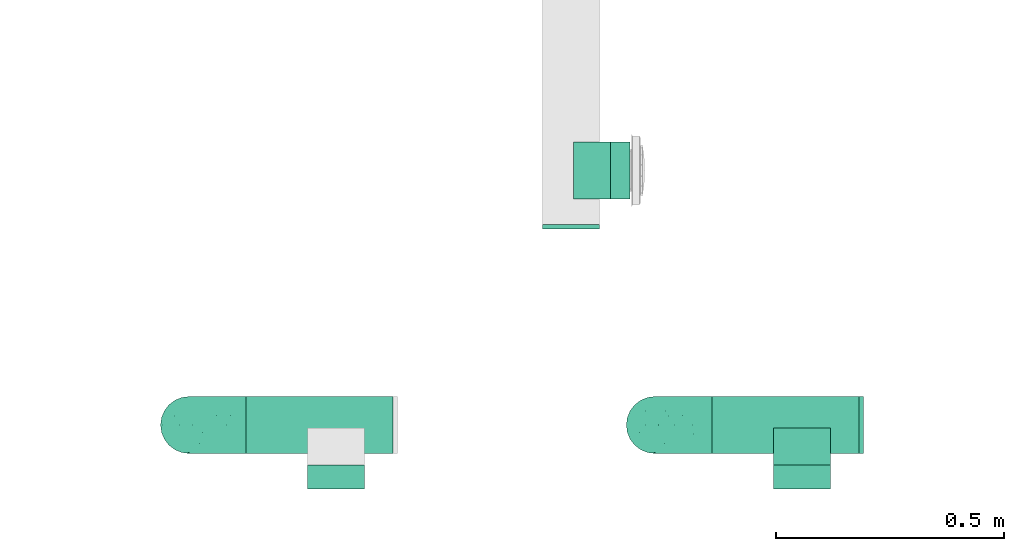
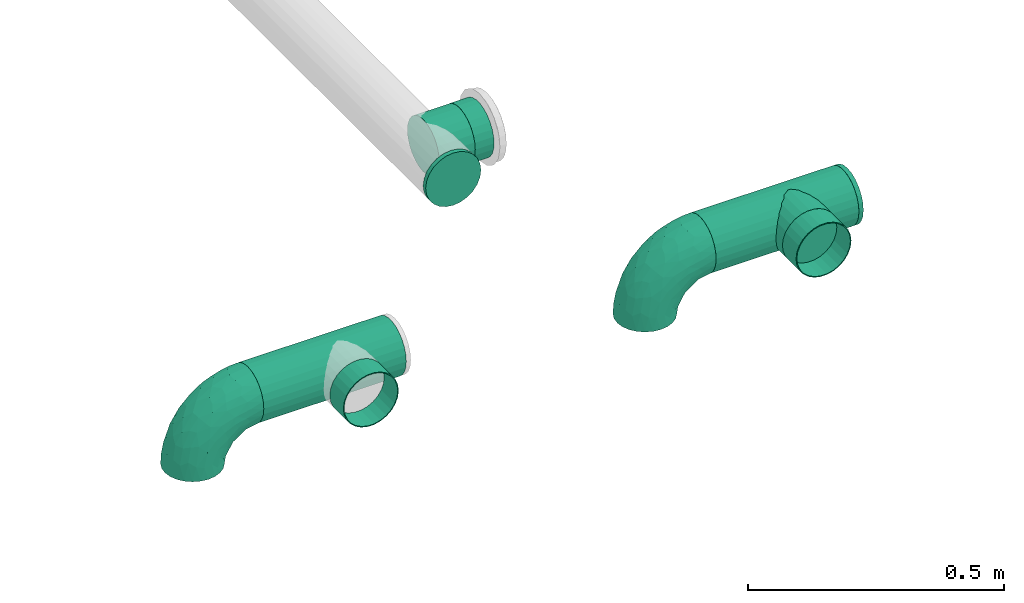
# One storey, part 12 of 63: 6 flow fittings, 5 flow segments.
"""IFC2X3 building model written with IfcOpenShell, lengths in millimetres."""

from ifc_helpers import new_model, entity, si_unit, converted_unit, derived_unit, direction, frame, origin_with_axes, origin_2d_with_axis, place, context, subcontext, project, spatial, hollow_circle, extrude, open_shell, surface_model, source, transform, mapped, type_object, element, save


model = new_model("IFC2X3")

# Units and contexts
model_context = context("Model", 3, precision=0.01, world=frame((0.0, 4.29681676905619e-09, 0.0)), true_north=direction((4.01073788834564e-13, 1.0)))
plan_context = context("Plan", 3, precision=0.01, world=frame((0.0, 4.29681676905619e-09, 0.0)), true_north=direction((4.01073788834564e-13, 1.0)))
body_context = subcontext(model_context, "Body", "Model", "MODEL_VIEW")
ifc_project = project(units=[converted_unit("PLANEANGLEUNIT", "DEGREE", entity("IfcPositiveLengthMeasure", 0.0174532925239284), si_unit("PLANEANGLEUNIT", "RADIAN"), dimensions=[0, 0, 0, 0, 0, 0, 0]), si_unit("AREAUNIT", "SQUARE_METRE"), si_unit("LENGTHUNIT", "METRE", prefix="MILLI"), si_unit("MASSUNIT", "GRAM", prefix="KILO"), si_unit("POWERUNIT", "WATT"), si_unit("PRESSUREUNIT", "PASCAL"), si_unit("FORCEUNIT", "NEWTON", prefix="KILO"), si_unit("ELECTRICVOLTAGEUNIT", "VOLT"), si_unit("ELECTRICCURRENTUNIT", "AMPERE"), si_unit("THERMODYNAMICTEMPERATUREUNIT", "DEGREE_CELSIUS"), si_unit("TIMEUNIT", "SECOND"), si_unit("VOLUMEUNIT", "CUBIC_METRE"), derived_unit("LINEARVELOCITYUNIT", [(si_unit("LENGTHUNIT", "METRE"), 1), (si_unit("TIMEUNIT", "SECOND"), -1)]), derived_unit("VOLUMETRICFLOWRATEUNIT", [(si_unit("VOLUMEUNIT", "CUBIC_METRE"), 1), (si_unit("TIMEUNIT", "SECOND"), -1)]), derived_unit("THERMALTRANSMITTANCEUNIT", [(si_unit("POWERUNIT", "WATT"), 1), (si_unit("THERMODYNAMICTEMPERATUREUNIT", "KELVIN"), -1), (si_unit("AREAUNIT", "SQUARE_METRE"), -1)]), derived_unit("SOUNDPRESSUREUNIT", [(si_unit("PRESSUREUNIT", "PASCAL"), 1)])], contexts=[model_context, plan_context])

# Site, building, storey
site_placement = place(None, frame((0.0, -4.29681676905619e-09, 0.0), z_axis=(0.0, 0.0, 1.0), x_axis=(1.0, 0.0, 0.0)))
site = spatial("IfcSite", under=ifc_project, at=site_placement, CompositionType="ELEMENT")
building_placement = place(site_placement, frame((0.0, 4.29681676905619e-09, 0.0), z_axis=(0.0, 0.0, 1.0), x_axis=(1.0, 0.0, 0.0)))
building = spatial("IfcBuilding", under=site, at=building_placement, Name="mc-building", CompositionType="ELEMENT")
storey_placement = place(building_placement, frame((0.0, 0.0, 210900.0), z_axis=(0.0, 0.0, 1.0), x_axis=(1.0, 0.0, 0.0)))
storey = spatial("IfcBuildingStorey", under=building, at=storey_placement, Name="Nivå F", CompositionType="ELEMENT", Elevation=210900.0)

# Flow fittings
duct_fitting_type_1 = type_object("IfcDuctFittingType", Name="magicirc_elbow_full_radius_001", PredefinedType="BEND")
shared_shape_1 = source(origin_with_axes(), body_context, "Body", "SurfaceModel", [
    surface_model("IfcShellBasedSurfaceModel", [(-125.0, 16.17619, -60.37037), (-125.0, 0.0, -62.5), (-125.0, 44.19417, -44.19417), (-125.0, 31.25, -54.12659), (-125.0, 60.37037, -16.17619), (-125.0, 54.12659, -31.25), (-125.0, -16.17619, -60.37037), (-125.0, -31.25, -54.12659), (-125.0, -44.19417, -44.19417), (-125.0, -54.12659, -31.25), (-125.0, -60.37037, -16.17619), (-125.0, -62.5, 0.0), (-125.0, 62.5, 0.0), (-125.0, -31.25, 54.12659), (-125.0, 60.37037, 16.17619), (-125.0, 54.12659, 31.25), (-125.0, 16.17619, 60.37037), (-125.0, 31.25, 54.12659), (-125.0, 44.19417, 44.19417), (-125.0, -54.12659, 31.25), (-125.0, -44.19417, 44.19417), (-125.0, -60.37037, 16.17619), (-125.0, -16.17619, 60.37037), (-125.0, 0.0, 62.5), (-44.19417, 125.0, -44.19417), (0.0, 125.0, -62.5), (-16.17619, 125.0, -60.37037), (-31.25, 125.0, -54.12659), (-54.12659, 125.0, -31.25), (-60.37037, 125.0, -16.17619), (16.17619, 125.0, -60.37037), (44.19417, 125.0, -44.19417), (31.25, 125.0, -54.12659), (60.37037, 125.0, -16.17619), (54.12659, 125.0, -31.25), (62.5, 125.0, 0.0), (44.19417, 125.0, 44.19417), (31.25, 125.0, 54.12659), (-62.5, 125.0, 0.0), (-60.37037, 125.0, 16.17619), (-54.12659, 125.0, 31.25), (-16.17619, 125.0, 60.37037), (-44.19417, 125.0, 44.19417), (-31.25, 125.0, 54.12659), (60.37037, 125.0, 16.17619), (54.12659, 125.0, 31.25), (0.0, 125.0, 62.5), (16.17619, 125.0, 60.37037), (-92.0149, -48.59662, 35.11543), (-82.31101, -36.10079, 46.59002), (-83.27732, -57.79898, 0.0), (21.5934, 8.09566, 0.0), (6.68953, -6.68953, 12.50062), (-8.09566, -21.5934, 0.0), (-85.18285, -54.95352, 19.72452), (-63.86862, 108.10791, 10.69753), (-72.65264, 88.16475, 13.64847), (-58.85933, 108.47697, 26.01876), (28.68805, 50.93011, 42.73586), (15.24994, 48.30376, 51.88115), (13.33611, 22.15566, 40.76355), (-28.58034, -33.18174, 16.61251), (-55.80927, -40.00167, 31.60254), (-55.92901, -46.21073, 18.75923), (-43.6468, -43.93166, 0.0), (-11.16429, 11.16428, 51.09905), (-91.91541, -23.64007, 56.2333), (-48.30376, -15.24994, 51.88115), (-62.2246, -0.56088, 60.57833), (-86.05221, 71.09173, 22.01563), (-76.29757, 73.71528, 30.99181), (-95.48, -8.27954, 61.43109), (-21.72166, 61.46244, 62.38786), (-46.29465, 46.29465, 60.98138), (-37.21568, 27.31198, 62.17805), (-96.3442, 24.51222, 59.0402), (-23.33012, 107.80836, 58.54242), (-8.56588, 93.49118, 62.34649), (-87.52028, 9.58041, 62.39347), (-90.8433, 62.14568, 32.36992), (-104.65631, 61.64741, 22.10298), (-108.67612, 63.76169, 10.43133), (-88.81041, 72.98575, 10.36437), (36.10079, 82.31101, 46.59002), (-22.15566, -13.33612, 40.76355), (-97.70214, 52.10141, 41.01675), (33.18174, 28.58034, 16.61251), (43.93166, 43.6468, 0.0), (-108.13323, 37.84893, 50.9265), (-16.31425, 41.86087, 61.36861), (-31.05498, 11.46575, 58.36241), (-6.38494, 33.76703, 57.43674), (23.64007, 91.91541, 56.2333), (8.27954, 95.48, 61.43109), (40.00167, 55.80927, 31.60254), (47.31258, 55.33607, 14.21495), (57.79898, 83.27732, 0.0), (54.95352, 85.18285, 19.72452), (48.59662, 92.0149, 35.11543), (-51.08394, 80.06201, 49.23756), (-51.34965, 100.68876, 40.68918), (-65.88145, 69.79931, 44.27158), (-67.25753, 101.08228, 0.0), (-66.7509, 56.0836, 51.93913), (-47.27423, 67.56375, 55.69769), (-80.80582, 80.80582, 0.0), (-101.08228, 67.25753, 0.0), (-27.0301, 84.68903, 59.52251), (-39.49549, 96.79785, 51.80473), (-4.68934, 4.68934, 43.22247), (2.91368, -2.91368, 27.95973), (-68.67967, 26.77168, 61.38152), (-61.32894, 15.31518, 62.47333), (-66.44476, 42.40788, 57.80884), (-86.06534, 42.42608, 52.63144), (-36.4073, 64.87811, 59.87196), (0.56088, 62.2246, 60.57833), (-50.92891, -28.66756, 42.755), (-64.50927, 88.5041, 30.85553), (-27.43118, -26.16339, 29.83954), (22.73426, 21.43212, 28.89237), (-90.73911, 40.97988, -52.27133), (-51.05944, -15.77315, -52.43613), (-54.27147, -0.77962, -59.44482), (-25.11169, -1.04586, -51.21226), (-98.94229, 7.90272, -62.29658), (-67.16143, 94.52638, -18.73917), (-96.1712, 24.53976, -59.04752), (-57.8841, 72.64103, -48.12601), (-44.50916, 76.42373, -54.27754), (-57.76281, 57.76281, -54.8772), (-107.28047, 64.03146, -11.08737), (-59.60363, -46.85882, -20.9596), (-91.17795, -55.95169, -20.37554), (-87.70528, 72.36167, -15.72738), (37.33987, 90.42119, -47.18844), (21.5694, 79.15007, -55.58604), (24.6394, 105.55614, -56.88213), (-98.81833, 51.80612, -40.89409), (-75.37655, 57.2746, -47.13743), (-29.56225, -32.61603, -19.86672), (2.63114, 29.35884, -52.12213), (-22.06401, 22.064, -59.01679), (-105.22465, -49.75349, -36.31269), (-39.22852, 98.11971, -51.7028), (-25.51302, 90.93127, -59.26694), (7.06321, 14.54725, -41.00964), (25.49531, 46.66577, -43.72165), (20.99941, 20.9078, -30.93535), (-90.42119, -37.33987, -47.18844), (-47.40462, -35.90659, -32.07933), (-105.55614, -24.6394, -56.88213), (0.77962, 54.27147, -59.44482), (12.91756, 53.35696, -54.59988), (7.88048, 92.08251, -61.35725), (-79.15007, -21.5694, -55.58604), (-92.08251, -7.88048, -61.35725), (-78.52964, -46.34869, -33.8522), (-68.20954, -28.53784, -49.07387), (46.34869, 78.52964, -33.8522), (46.85882, 59.60363, -20.9596), (35.90659, 47.40462, -32.07933), (-75.95077, 74.3101, -30.65772), (-100.92719, 60.72326, -27.00798), (2.91558, -2.91558, -27.95435), (6.69001, -6.69001, -12.49729), (32.61603, 29.56225, -19.86672), (-54.06785, 91.48679, -41.70621), (-58.74822, 101.55878, -30.19257), (-7.90272, 98.94229, -62.29658), (49.75349, 105.22465, -36.31269), (-14.77484, 68.85348, -62.48651), (-33.7955, 36.46996, -62.46452), (-36.98162, 59.24998, -60.63975), (55.95169, 91.17795, -20.37554), (-61.70769, 36.16979, -60.43635), (-23.35082, -23.18253, -30.24249), (-68.85348, 14.77484, -62.48651), (-16.60827, -10.64436, -39.25753), (-46.66577, -25.49531, -43.72165), (-69.70063, 70.78468, -40.55271)], [open_shell([[[0, 1, 2]], [[3, 0, 2]], [[4, 5, 2]], [[6, 2, 1]], [[4, 2, 6]], [[7, 8, 6]], [[8, 4, 6]], [[9, 10, 8]], [[11, 8, 10]], [[8, 11, 4]], [[11, 12, 4]], [[12, 13, 14]], [[15, 14, 16]], [[16, 17, 18]], [[15, 16, 18]], [[16, 14, 13]], [[19, 20, 21]], [[21, 20, 11]], [[22, 23, 13]], [[20, 13, 11]], [[13, 23, 16]], [[13, 12, 11]], [[24, 25, 26]], [[24, 26, 27]], [[24, 28, 29]], [[25, 24, 30]], [[30, 24, 29]], [[30, 31, 32]], [[30, 29, 31]], [[31, 33, 34]], [[33, 31, 35]], [[31, 36, 35]], [[31, 29, 37]], [[38, 39, 40]], [[38, 40, 41]], [[42, 43, 41]], [[42, 41, 40]], [[38, 41, 37]], [[44, 36, 45]], [[35, 36, 44]], [[37, 46, 47]], [[31, 37, 36]], [[41, 46, 37]], [[29, 38, 37]], [[20, 48, 49]], [[21, 11, 50]], [[51, 52, 53]], [[54, 19, 21]], [[50, 54, 21]], [[55, 56, 57]], [[19, 48, 20]], [[58, 59, 60]], [[61, 62, 63]], [[61, 63, 64]], [[20, 49, 13]], [[61, 64, 53]], [[65, 60, 59]], [[66, 67, 68]], [[56, 69, 70]], [[71, 23, 22]], [[72, 73, 74]], [[17, 16, 75]], [[66, 13, 49]], [[41, 76, 77]], [[23, 78, 16]], [[15, 79, 80]], [[81, 12, 14]], [[69, 82, 81]], [[83, 36, 37]], [[65, 67, 84]], [[18, 85, 15]], [[86, 51, 87]], [[18, 17, 88]], [[89, 90, 91]], [[83, 37, 92]], [[69, 81, 80]], [[93, 47, 46]], [[94, 86, 95]], [[96, 97, 95]], [[96, 44, 97]], [[98, 97, 45]], [[46, 41, 77]], [[63, 50, 64]], [[44, 45, 97]], [[83, 94, 98]], [[45, 36, 98]], [[99, 100, 101]], [[55, 102, 56]], [[39, 57, 40]], [[44, 96, 35]], [[48, 54, 62]], [[79, 70, 69]], [[99, 103, 104]], [[38, 102, 55]], [[23, 71, 78]], [[56, 105, 82]], [[18, 88, 85]], [[102, 105, 56]], [[92, 37, 47]], [[57, 100, 40]], [[82, 105, 106]], [[107, 108, 104]], [[109, 110, 60]], [[107, 72, 77]], [[13, 66, 22]], [[108, 107, 76]], [[76, 41, 43]], [[43, 42, 108]], [[83, 92, 59]], [[95, 86, 87]], [[111, 112, 74]], [[75, 16, 78]], [[113, 75, 111]], [[103, 85, 114]], [[80, 79, 69]], [[100, 42, 40]], [[115, 104, 73]], [[107, 115, 72]], [[93, 77, 116]], [[67, 66, 49]], [[71, 66, 68]], [[67, 117, 84]], [[67, 65, 90]], [[93, 92, 47]], [[116, 91, 59]], [[116, 59, 92]], [[109, 60, 65]], [[54, 48, 19]], [[49, 48, 62]], [[83, 98, 36]], [[97, 98, 94]], [[111, 75, 78]], [[88, 75, 114]], [[81, 82, 106]], [[56, 82, 69]], [[12, 81, 106]], [[81, 14, 80]], [[14, 15, 80]], [[79, 15, 85]], [[85, 101, 79]], [[70, 101, 118]], [[108, 99, 104]], [[113, 103, 114]], [[111, 74, 73]], [[116, 77, 72]], [[90, 74, 68]], [[72, 74, 89]], [[77, 93, 46]], [[92, 93, 116]], [[66, 71, 22]], [[78, 71, 68]], [[101, 100, 118]], [[108, 42, 100]], [[52, 61, 53]], [[119, 110, 84]], [[94, 58, 120]], [[86, 120, 52]], [[117, 67, 49]], [[61, 119, 62]], [[120, 60, 110]], [[83, 58, 94]], [[111, 78, 112]], [[113, 111, 73]], [[104, 113, 73]], [[75, 113, 114]], [[104, 103, 113]], [[85, 103, 101]], [[78, 68, 112]], [[68, 74, 112]], [[101, 70, 79]], [[56, 70, 118]], [[67, 90, 68]], [[91, 90, 65]], [[59, 91, 65]], [[89, 91, 116]], [[72, 89, 116]], [[90, 89, 74]], [[57, 56, 118]], [[38, 55, 39]], [[86, 52, 51]], [[61, 52, 110]], [[75, 88, 17]], [[85, 88, 114]], [[108, 76, 43]], [[77, 76, 107]], [[55, 57, 39]], [[100, 57, 118]], [[72, 115, 73]], [[107, 104, 115]], [[100, 99, 108]], [[103, 99, 101]], [[62, 54, 63]], [[63, 54, 50]], [[96, 95, 87]], [[94, 95, 97]], [[49, 62, 117]], [[119, 117, 62]], [[110, 119, 61]], [[117, 119, 84]], [[65, 84, 109]], [[110, 109, 84]], [[52, 120, 110]], [[94, 120, 86]], [[59, 58, 83]], [[120, 58, 60]], [[2, 121, 3]], [[122, 123, 124]], [[1, 0, 125]], [[126, 102, 38]], [[3, 127, 0]], [[128, 129, 130]], [[106, 131, 12]], [[132, 50, 133]], [[106, 134, 131]], [[135, 136, 137]], [[138, 139, 121]], [[64, 140, 53]], [[141, 124, 142]], [[121, 2, 138]], [[133, 9, 143]], [[144, 27, 145]], [[50, 11, 10]], [[146, 147, 148]], [[149, 8, 7]], [[140, 132, 150]], [[151, 149, 7]], [[141, 152, 153]], [[30, 154, 25]], [[133, 10, 9]], [[143, 9, 8]], [[155, 156, 123]], [[157, 149, 158]], [[7, 6, 151]], [[156, 6, 1]], [[159, 160, 161]], [[105, 134, 106]], [[64, 50, 132]], [[126, 162, 134]], [[138, 163, 162]], [[29, 126, 38]], [[140, 164, 165]], [[166, 87, 51]], [[167, 168, 28]], [[162, 126, 168]], [[32, 31, 135]], [[154, 30, 137]], [[26, 169, 145]], [[127, 3, 121]], [[169, 26, 25]], [[31, 34, 170]], [[27, 144, 24]], [[26, 145, 27]], [[30, 32, 137]], [[87, 166, 160]], [[165, 166, 51]], [[171, 172, 173]], [[142, 152, 141]], [[165, 51, 53]], [[156, 155, 151]], [[136, 135, 147]], [[34, 33, 174]], [[35, 96, 33]], [[175, 127, 121]], [[2, 5, 138]], [[174, 159, 170]], [[176, 140, 150]], [[171, 154, 152]], [[126, 105, 102]], [[28, 24, 167]], [[173, 145, 171]], [[131, 163, 4]], [[128, 144, 129]], [[139, 128, 130]], [[174, 160, 159]], [[170, 135, 31]], [[147, 135, 159]], [[152, 154, 136]], [[169, 154, 171]], [[153, 147, 141]], [[152, 142, 172]], [[33, 96, 174]], [[160, 96, 87]], [[155, 122, 158]], [[143, 149, 157]], [[125, 156, 1]], [[177, 172, 123]], [[177, 123, 156]], [[123, 142, 124]], [[133, 157, 132]], [[50, 10, 133]], [[126, 134, 105]], [[168, 29, 28]], [[163, 5, 4]], [[121, 139, 130]], [[175, 121, 130]], [[125, 127, 177]], [[145, 173, 129]], [[167, 24, 144]], [[147, 146, 141]], [[178, 124, 146]], [[124, 141, 146]], [[124, 179, 122]], [[162, 163, 134]], [[138, 5, 163]], [[127, 125, 0]], [[156, 125, 177]], [[154, 169, 25]], [[145, 169, 171]], [[147, 161, 148]], [[146, 164, 178]], [[176, 164, 140]], [[124, 178, 179]], [[171, 152, 172]], [[175, 130, 173]], [[123, 172, 142]], [[175, 172, 177]], [[172, 175, 173]], [[127, 175, 177]], [[162, 180, 138]], [[180, 167, 128]], [[160, 174, 96]], [[161, 160, 166]], [[161, 166, 148]], [[147, 159, 161]], [[166, 164, 148]], [[164, 146, 148]], [[150, 132, 157]], [[64, 132, 140]], [[157, 179, 150]], [[176, 179, 178]], [[180, 128, 139]], [[144, 128, 167]], [[145, 129, 144]], [[173, 130, 129]], [[138, 180, 139]], [[167, 180, 162]], [[179, 176, 150]], [[164, 176, 178]], [[140, 165, 53]], [[166, 165, 164]], [[163, 131, 134]], [[12, 131, 4]], [[135, 137, 32]], [[154, 137, 136]], [[174, 170, 34]], [[135, 170, 159]], [[156, 151, 6]], [[149, 151, 155]], [[149, 143, 8]], [[133, 143, 157]], [[162, 168, 167]], [[29, 168, 126]], [[152, 136, 153]], [[147, 153, 136]], [[158, 122, 179]], [[123, 122, 155]], [[157, 158, 179]], [[155, 158, 149]]])]),
])
for number, where, z_axis, x_axis, name in (
    (1, (531430.70917, 440892.96265, 2163.0), (0.0, -1.0, 0.0), (-1.0, 0.0, 0.0), "magicirc_elbow_full_radius_001"),
    (2, (530408.70917, 440892.96265, 2163.0), (0.0, -1.0, 0.0), (-1.0, 0.0, 0.0), "magicirc_elbow_full_radius_001"),
):
    element("IfcFlowFitting", number, at=place(storey_placement, frame(where, z_axis=z_axis, x_axis=x_axis)), inside=storey, type_object=duct_fitting_type_1, Name=name, context=body_context, shape_type="MappedRepresentation", body=[
        mapped(shared_shape_1, transform((0.0, 0.0, 0.0), scale=1.0)),
    ])
duct_fitting_type_2 = type_object("IfcDuctFittingType", Name="magicirc_tapoutlet_001", PredefinedType="CONNECTOR")
shared_shape_2 = source(origin_with_axes(), body_context, "Body", "SurfaceModel", [
    surface_model("IfcShellBasedSurfaceModel", [(25.0, 0.0, -62.5), (25.0, -31.25, -54.12659), (25.0, -16.17619, -60.37037), (25.0, 44.19417, -44.19417), (25.0, 62.5, 0.0), (25.0, 31.25, -54.12659), (25.0, 54.12659, -31.25), (25.0, -62.5, 0.0), (25.0, -60.37037, -16.17619), (25.0, -60.37037, 16.17619), (25.0, 16.17619, -60.37037), (25.0, -44.19417, -44.19417), (25.0, -54.12659, -31.25), (25.0, 60.37037, -16.17619), (25.0, 60.37037, 16.17619), (25.0, 54.12659, 31.25), (25.0, 44.19417, 44.19417), (25.0, 31.25, 54.12659), (25.0, 0.0, 62.5), (25.0, 16.17619, 60.37037), (25.0, -44.19417, 44.19417), (25.0, -54.12659, 31.25), (25.0, -16.17619, 60.37037), (25.0, -31.25, 54.12659), (0.0, 0.0, 62.5), (0.0, 16.17619, 60.37037), (0.0, 31.25, 54.12659), (0.0, 44.19417, 44.19417), (0.0, 54.12659, 31.25), (0.0, 60.37037, 16.17619), (0.0, 62.5, 0.0), (0.0, 60.37037, -16.17619), (0.0, 54.12659, -31.25), (0.0, 44.19417, -44.19417), (0.0, 31.25, -54.12659), (0.0, 16.17619, -60.37037), (0.0, 0.0, -62.5), (0.0, -16.17619, -60.37037), (0.0, -31.25, -54.12659), (0.0, -44.19417, -44.19417), (0.0, -54.12659, -31.25), (0.0, -60.37037, -16.17619), (0.0, -62.5, 0.0), (0.0, -60.37037, 16.17619), (0.0, -54.12659, 31.25), (0.0, -44.19417, 44.19417), (0.0, -31.25, 54.12659), (0.0, -16.17619, 60.37037), (-56.404, -44.19417, -44.19417), (-56.404, -54.12659, -31.25), (-56.404, -62.5, 0.0), (-56.404, -31.25, -54.12659), (-56.404, 0.0, -62.5), (-56.404, 62.5, 0.0), (-56.404, 60.37037, -16.17619), (-56.404, 60.37037, 16.17619), (-56.404, -16.17619, -60.37037), (-56.404, 16.17619, -60.37037), (-56.404, 31.25, -54.12659), (-56.404, 44.19417, -44.19417), (-56.404, 54.12659, -31.25), (-56.404, -60.37037, 16.17619), (-56.404, -60.37037, -16.17619), (-56.404, 54.12659, 31.25), (-56.404, 44.19417, 44.19417), (-56.404, 16.17619, 60.37037), (-56.404, 31.25, 54.12659), (-56.404, -16.17619, 60.37037), (-56.404, -54.12659, 31.25), (-56.404, -44.19417, 44.19417), (-56.404, -31.25, 54.12659), (-56.404, 0.0, 62.5)], [open_shell([[[0, 1, 2]], [[3, 4, 5]], [[3, 6, 4]], [[7, 8, 9]], [[10, 4, 0]], [[5, 4, 10]], [[11, 0, 9]], [[0, 11, 1]], [[1, 2, 0]], [[12, 9, 8]], [[9, 12, 11]], [[8, 9, 7]], [[4, 6, 13]], [[14, 15, 0]], [[0, 15, 16]], [[0, 17, 18]], [[16, 17, 0]], [[17, 19, 18]], [[0, 20, 21]], [[21, 9, 0]], [[22, 23, 0]], [[23, 20, 0]], [[22, 0, 18]], [[4, 14, 0]], [[24, 18, 19]], [[25, 19, 17]], [[24, 19, 25]], [[26, 16, 27]], [[26, 25, 17]], [[16, 26, 17]], [[28, 15, 14]], [[29, 14, 4]], [[27, 15, 28]], [[29, 28, 14]], [[30, 29, 4]], [[15, 27, 16]], [[30, 4, 13]], [[31, 13, 6]], [[30, 13, 31]], [[32, 3, 33]], [[32, 31, 6]], [[3, 32, 6]], [[34, 5, 10]], [[35, 10, 0]], [[33, 5, 34]], [[35, 34, 10]], [[36, 35, 0]], [[5, 33, 3]], [[36, 0, 2]], [[37, 2, 1]], [[36, 2, 37]], [[38, 11, 39]], [[38, 37, 1]], [[11, 38, 1]], [[40, 12, 8]], [[41, 8, 7]], [[39, 12, 40]], [[41, 40, 8]], [[42, 41, 7]], [[12, 39, 11]], [[42, 7, 9]], [[43, 9, 21]], [[42, 9, 43]], [[44, 20, 45]], [[44, 43, 21]], [[20, 44, 21]], [[46, 23, 22]], [[47, 22, 18]], [[45, 23, 46]], [[47, 46, 22]], [[24, 47, 18]], [[23, 45, 20]], [[15, 0, 14]], [[15, 16, 0]], [[0, 16, 17]], [[18, 17, 19]], [[9, 0, 21]], [[0, 23, 20]], [[18, 22, 0]], [[14, 0, 4]], [[48, 49, 50]], [[48, 50, 51]], [[36, 37, 52]], [[52, 35, 36]], [[53, 54, 55]], [[52, 56, 57]], [[57, 55, 58]], [[59, 55, 60]], [[58, 55, 59]], [[57, 50, 61]], [[56, 51, 50]], [[62, 50, 49]], [[50, 57, 56]], [[54, 60, 55]], [[55, 57, 63]], [[64, 63, 57]], [[57, 65, 66]], [[57, 66, 64]], [[57, 67, 65]], [[68, 69, 57]], [[57, 61, 68]], [[69, 70, 57]], [[57, 70, 67]], [[67, 71, 65]], [[71, 24, 25]], [[66, 25, 26]], [[71, 25, 65]], [[65, 25, 66]], [[26, 64, 66]], [[26, 27, 64]], [[55, 28, 29]], [[53, 29, 30]], [[27, 63, 64]], [[27, 28, 63]], [[63, 28, 55]], [[29, 53, 55]], [[54, 30, 31]], [[60, 31, 32]], [[53, 30, 54]], [[54, 31, 60]], [[32, 59, 60]], [[32, 33, 59]], [[57, 34, 35]], [[33, 58, 59]], [[33, 34, 58]], [[58, 34, 57]], [[35, 52, 57]], [[37, 38, 51]], [[52, 37, 56]], [[48, 51, 38]], [[37, 51, 56]], [[38, 39, 48]], [[62, 40, 41]], [[50, 41, 42]], [[39, 49, 48]], [[39, 40, 49]], [[49, 40, 62]], [[41, 50, 62]], [[43, 44, 68]], [[42, 43, 61]], [[61, 50, 42]], [[68, 61, 43]], [[44, 69, 68]], [[44, 45, 69]], [[67, 46, 47]], [[71, 47, 24]], [[45, 70, 69]], [[45, 46, 70]], [[70, 46, 67]], [[47, 71, 67]], [[57, 63, 55]], [[57, 64, 63]], [[66, 57, 65]], [[66, 64, 57]], [[65, 57, 67]], [[68, 57, 61]]])]),
])
for number, where, z_axis, x_axis, name in (
    (3, (531753.42256, 440830.46265, 2163.0), (0.0, 0.0, -1.0), (0.0, -1.0, 0.0), "magicirc_tapoutlet_001"),
    (4, (531308.90768, 441451.49375, 2163.0), (0.0, 0.0, -1.0), (1.0, 0.0, 0.0), "magicirc_tapoutlet_001"),
):
    element("IfcFlowFitting", number, at=place(storey_placement, frame(where, z_axis=z_axis, x_axis=x_axis)), inside=storey, type_object=duct_fitting_type_2, Name=name, context=body_context, shape_type="MappedRepresentation", body=[
        mapped(shared_shape_2, transform((0.0, 0.0, 0.0), scale=1.0)),
    ])
duct_fitting_type_3 = type_object("IfcDuctFittingType", Name="magicirc_plug_001", PredefinedType="OBSTRUCTION")
shared_shape_3 = source(origin_with_axes(), body_context, "Body", "SurfaceModel", [
    surface_model("IfcShellBasedSurfaceModel", [(0.0, 0.0, -62.5), (0.0, -16.17619, -60.37037), (0.0, 16.17619, -60.37037), (0.0, 31.25, -54.12659), (0.0, 54.12659, -31.25), (0.0, 44.19417, -44.19417), (0.0, 60.37037, -16.17619), (0.0, -31.25, -54.12659), (0.0, -44.19417, -44.19417), (0.0, -62.5, 0.0), (0.0, -54.12659, -31.25), (0.0, -60.37037, -16.17619), (0.0, 62.5, 0.0), (0.0, 60.37037, 16.17619), (0.0, 44.19417, 44.19417), (0.0, 54.12659, 31.25), (0.0, 31.25, 54.12659), (0.0, -54.12659, 31.25), (0.0, -16.17619, 60.37037), (0.0, 16.17619, 60.37037), (0.0, -44.19417, 44.19417), (0.0, -31.25, 54.12659), (0.0, -60.37037, 16.17619), (0.0, 0.0, 62.5), (10.0, 16.17619, -60.37037), (10.0, -16.17619, -60.37037), (10.0, 0.0, -62.5), (10.0, 44.19417, -44.19417), (10.0, 31.25, -54.12659), (10.0, 54.12659, -31.25), (10.0, 60.37037, -16.17619), (10.0, -44.19417, -44.19417), (10.0, -31.25, -54.12659), (10.0, -62.5, 0.0), (10.0, -60.37037, -16.17619), (10.0, -54.12659, -31.25), (10.0, -54.12659, 31.25), (10.0, 44.19417, 44.19417), (10.0, 62.5, 0.0), (10.0, 60.37037, 16.17619), (10.0, 54.12659, 31.25), (10.0, 31.25, 54.12659), (10.0, 16.17619, 60.37037), (10.0, -16.17619, 60.37037), (10.0, -31.25, 54.12659), (10.0, -44.19417, 44.19417), (10.0, -60.37037, 16.17619), (10.0, 0.0, 62.5)], [open_shell([[[0, 1, 2]], [[3, 2, 4]], [[4, 2, 1]], [[5, 3, 4]], [[6, 4, 1]], [[7, 8, 1]], [[9, 1, 8]], [[10, 11, 8]], [[9, 8, 11]], [[9, 6, 1]], [[9, 12, 6]], [[13, 12, 14]], [[15, 13, 14]], [[16, 14, 17]], [[9, 17, 14]], [[16, 18, 19]], [[20, 21, 17]], [[17, 9, 22]], [[21, 18, 17]], [[17, 18, 16]], [[18, 23, 19]], [[14, 12, 9]], [[24, 25, 26]], [[27, 24, 28]], [[25, 24, 29]], [[29, 24, 27]], [[25, 29, 30]], [[25, 31, 32]], [[31, 25, 33]], [[31, 34, 35]], [[34, 31, 33]], [[25, 30, 33]], [[30, 36, 33]], [[37, 38, 39]], [[37, 39, 40]], [[37, 41, 42]], [[38, 37, 43]], [[43, 37, 42]], [[36, 44, 45]], [[46, 33, 36]], [[38, 44, 36]], [[43, 44, 38]], [[42, 47, 43]], [[36, 30, 38]], [[46, 9, 33]], [[36, 22, 46]], [[20, 45, 44]], [[36, 45, 17]], [[21, 44, 43]], [[36, 17, 22]], [[22, 9, 46]], [[18, 47, 23]], [[18, 21, 43]], [[20, 44, 21]], [[20, 17, 45]], [[47, 18, 43]], [[41, 19, 42]], [[37, 16, 41]], [[15, 40, 39]], [[37, 40, 14]], [[13, 39, 38]], [[41, 16, 19]], [[19, 23, 42]], [[13, 15, 39]], [[14, 40, 15]], [[14, 16, 37]], [[12, 13, 38]], [[42, 23, 47]], [[30, 12, 38]], [[29, 6, 30]], [[5, 27, 28]], [[29, 27, 4]], [[3, 28, 24]], [[29, 4, 6]], [[6, 12, 30]], [[2, 26, 0]], [[2, 3, 24]], [[5, 28, 3]], [[5, 4, 27]], [[26, 2, 24]], [[32, 1, 25]], [[31, 7, 32]], [[10, 35, 34]], [[31, 35, 8]], [[11, 34, 33]], [[32, 7, 1]], [[1, 0, 25]], [[11, 10, 34]], [[8, 35, 10]], [[8, 7, 31]], [[9, 11, 33]], [[25, 0, 26]]])]),
])
for number, where, z_axis, x_axis, name in (
    (5, (531878.42289, 440892.96265, 2163.0), (0.0, 0.0, 1.0), (1.0, 0.0, 0.0), "magicirc_plug_001"),
    (6, (531246.40768, 441333.33664, 2163.0), (0.0, 0.0, 1.0), (0.0, -1.0, 0.0), "magicirc_plug_001"),
):
    element("IfcFlowFitting", number, at=place(storey_placement, frame(where, z_axis=z_axis, x_axis=x_axis)), inside=storey, type_object=duct_fitting_type_3, Name=name, context=body_context, shape_type="MappedRepresentation", body=[
        mapped(shared_shape_3, transform((0.0, 0.0, 0.0), scale=1.0)),
    ])

# Flow segments
duct_segment_type = type_object("IfcDuctSegmentType", Name="KK001T - Spiro kanaler, Forsinket stål", PredefinedType="RIGIDSEGMENT")
shared_shape_4 = source(origin_with_axes(), body_context, "Body", "SweptSolid", [
    extrude(hollow_circle(Radius=62.5, WallThickness=2.0, at=origin_2d_with_axis()), frame((0.0, 0.0, 0.0), z_axis=(1.0, 0.0, 0.0), x_axis=(0.0, 1.0, 0.0)), (0.0, 0.0, 1.0), 322.7),
])
flow_segment_1_placement = place(storey_placement, frame((531555.70917, 440892.96265, 2163.0), z_axis=(0.0, 0.0, 1.0), x_axis=(1.0, 0.0, 0.0)))
element("IfcFlowSegment", 7, at=flow_segment_1_placement, inside=storey, type_object=duct_segment_type, Name="KK001T - Spiro kanaler, Forsinket stål", context=body_context, shape_type="MappedRepresentation", body=[
    mapped(shared_shape_4, transform((0.0, 0.0, 0.0), scale=1.0)),
])
shared_shape_5 = source(origin_with_axes(), body_context, "Body", "SweptSolid", [
    extrude(hollow_circle(Radius=62.5, WallThickness=2.0, at=origin_2d_with_axis()), frame((0.0, 0.0, 0.0), z_axis=(1.0, 0.0, 0.0), x_axis=(0.0, 1.0, 0.0)), (0.0, 0.0, 1.0), 53.2),
])
for number, where, z_axis, x_axis in (
    (8, (531753.42256, 440805.46265, 2163.0), (0.0, 0.0, 1.0), (0.0, -1.0, 0.0)),
    (9, (530730.74955, 440805.46265, 2163.0), (0.0, 0.0, 1.0), (0.0, -1.0, 0.0)),
):
    element("IfcFlowSegment", number, at=place(storey_placement, frame(where, z_axis=z_axis, x_axis=x_axis)), inside=storey, type_object=duct_segment_type, Name="KK001T - Spiro kanaler, Forsinket stål", context=body_context, shape_type="MappedRepresentation", body=[
        mapped(shared_shape_5, transform((0.0, 0.0, 0.0), scale=1.0)),
    ])
shared_shape_6 = source(origin_with_axes(), body_context, "Body", "SweptSolid", [
    extrude(hollow_circle(Radius=62.5, WallThickness=2.0, at=origin_2d_with_axis()), frame((0.0, 0.0, 0.0), z_axis=(1.0, 0.0, 0.0), x_axis=(0.0, 1.0, 0.0)), (0.0, 0.0, 1.0), 322.0),
])
flow_segment_2_placement = place(storey_placement, frame((530533.70917, 440892.96265, 2163.0), z_axis=(0.0, 0.0, 1.0), x_axis=(1.0, 0.0, 0.0)))
element("IfcFlowSegment", 10, at=flow_segment_2_placement, inside=storey, type_object=duct_segment_type, Name="KK001T - Spiro kanaler, Forsinket stål", context=body_context, shape_type="MappedRepresentation", body=[
    mapped(shared_shape_6, transform((0.0, 0.0, 0.0), scale=1.0)),
])
shared_shape_7 = source(origin_with_axes(), body_context, "Body", "SweptSolid", [
    extrude(hollow_circle(Radius=62.5, WallThickness=2.0, at=origin_2d_with_axis()), frame((0.0, 0.0, 0.0), z_axis=(1.0, 0.0, 0.0), x_axis=(0.0, 1.0, 0.0)), (0.0, 0.0, 1.0), 42.6),
])
flow_segment_3_placement = place(storey_placement, frame((531376.55467, 441451.49375, 2163.0), z_axis=(0.0, 0.0, 1.0), x_axis=(-1.0, 0.0, 0.0)))
element("IfcFlowSegment", 11, at=flow_segment_3_placement, inside=storey, type_object=duct_segment_type, Name="KK001T - Spiro kanaler, Forsinket stål", context=body_context, shape_type="MappedRepresentation", body=[
    mapped(shared_shape_7, transform((0.0, 0.0, 0.0), scale=1.0)),
])

save(model, "model.ifc")
